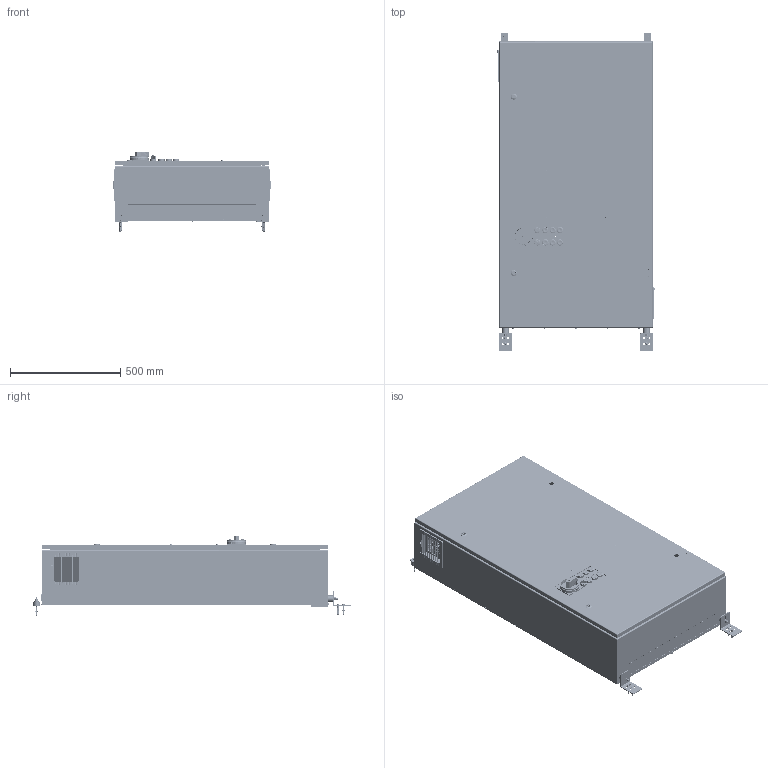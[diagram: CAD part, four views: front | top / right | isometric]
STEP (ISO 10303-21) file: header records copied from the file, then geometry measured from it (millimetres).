
FILE_DESCRIPTION (( 'STEP AP214' ), '1' );
FILE_NAME ('STRACK-WS04-0700x1300.STEP', '2023-11-05T16:41:52', ( '' ), ( '' ), 'SwSTEP 2.0', 'SolidWorks 2023', '' );
FILE_SCHEMA (( 'AUTOMOTIVE_DESIGN' ));
Length unit declared in the file: millimetre
Products named in the file (1): STRACK-WS04-0700x1300
Bounding box: 712.88 x 1444 x 364.2 mm (x, y, z)
Surface area: 11406314.8 mm2 (no closed solid volume)
Topology: 0 solids, 283 shells, 23176 faces, 64141 edges, 42169 vertices
Faces by surface type: plane 16071, cylinder 5611, bspline 679, cone 562, torus 225, sphere 28
Full cylindrical faces by diameter (mm): 1.5 x9, 1.84 x3, 2 x81, 3.2 x33, 3.3 x5, 3.4 x39, 4 x40, 4.4 x24, 4.5 x56, 4.7 x12, 4.8 x4, 5 x278, 5.1 x4, 5.3 x6, 5.5 x8, 6 x53, 6.001 x18, 6.4 x4, 6.6 x12, 6.8 x8, 7 x4, 7.15 x12, 7.2 x16, 7.273 x31, 7.4 x6, 7.64 x4, 7.7 x2, 7.8 x12, 8 x24, 8.4 x2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
Entity records: 1079390 total; most frequent: CARTESIAN_POINT 241119, ORIENTED_EDGE 125534, DIRECTION 110019, EDGE_CURVE 62767, VECTOR 44319, LINE 44319, VERTEX_POINT 41984, AXIS2_PLACEMENT_3D 32850
